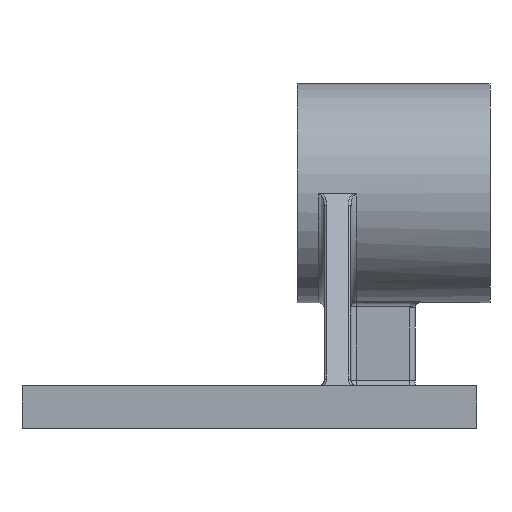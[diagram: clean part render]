
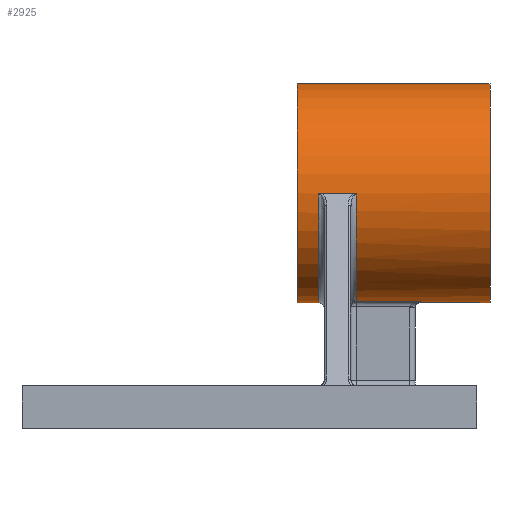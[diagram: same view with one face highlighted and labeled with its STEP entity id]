
A CAD part, left-side view. The second image highlights one B-rep face of the part: STEP entity #2925.
In plain terms, the highlighted cylindrical face has radius 41 mm (diameter 82 mm), a full revolution.
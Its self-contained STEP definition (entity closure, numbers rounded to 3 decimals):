
#301=CARTESIAN_POINT('',(-41.,-26.897,88.));
#302=VERTEX_POINT('',#301);
#303=CARTESIAN_POINT('',(-40.999,-26.,87.727));
#304=VERTEX_POINT('',#303);
#305=CARTESIAN_POINT('',(-40.999,-26.,87.727));
#306=CARTESIAN_POINT('',(-40.999,-26.001,87.728));
#307=CARTESIAN_POINT('',(-40.999,-26.002,87.729));
#308=CARTESIAN_POINT('',(-41.,-26.093,87.793));
#309=CARTESIAN_POINT('',(-41.,-26.189,87.845));
#310=CARTESIAN_POINT('',(-41.,-26.399,87.931));
#311=CARTESIAN_POINT('',(-41.,-26.512,87.961));
#312=CARTESIAN_POINT('',(-41.,-26.716,87.993));
#313=CARTESIAN_POINT('',(-41.,-26.806,88.));
#314=CARTESIAN_POINT('',(-41.,-26.897,88.));
#315=B_SPLINE_CURVE_WITH_KNOTS('',3,(#305,#306,#307,#308,#309,#310,#311,#312,#313,#314),.UNSPECIFIED.,.F.,.U.,(4,2,2,2,4),(0.,0.0,0.033,0.068,0.095),.UNSPECIFIED.);
#316=EDGE_CURVE('',#302,#304,#315,.F.);
#610=CARTESIAN_POINT('',(40.999,-26.,87.727));
#611=VERTEX_POINT('',#610);
#612=CARTESIAN_POINT('',(0.,-26.,88.));
#613=DIRECTION('',(0.0,-1.0,0.0));
#614=DIRECTION('',(0.0,0.0,-1.0));
#615=AXIS2_PLACEMENT_3D('',#612,#613,#614);
#616=CIRCLE('',#615,41.);
#617=EDGE_CURVE('',#304,#611,#616,.T.);
#803=CARTESIAN_POINT('',(41.,-39.103,88.));
#804=VERTEX_POINT('',#803);
#805=CARTESIAN_POINT('',(40.999,-40.,87.727));
#806=VERTEX_POINT('',#805);
#807=CARTESIAN_POINT('',(40.999,-40.,87.727));
#808=CARTESIAN_POINT('',(40.999,-39.999,87.728));
#809=CARTESIAN_POINT('',(40.999,-39.998,87.729));
#810=CARTESIAN_POINT('',(41.,-39.907,87.793));
#811=CARTESIAN_POINT('',(41.,-39.811,87.845));
#812=CARTESIAN_POINT('',(41.,-39.601,87.931));
#813=CARTESIAN_POINT('',(41.,-39.488,87.961));
#814=CARTESIAN_POINT('',(41.,-39.284,87.993));
#815=CARTESIAN_POINT('',(41.,-39.194,88.));
#816=CARTESIAN_POINT('',(41.,-39.103,88.));
#817=B_SPLINE_CURVE_WITH_KNOTS('',3,(#807,#808,#809,#810,#811,#812,#813,#814,#815,#816),.UNSPECIFIED.,.F.,.U.,(4,2,2,2,4),(0.,0.0,0.033,0.068,0.095),.UNSPECIFIED.);
#818=EDGE_CURVE('',#804,#806,#817,.F.);
#1120=CARTESIAN_POINT('',(41.,-26.897,88.));
#1121=VERTEX_POINT('',#1120);
#1122=CARTESIAN_POINT('',(41.,-26.897,88.));
#1123=CARTESIAN_POINT('',(41.,-26.861,88.));
#1124=CARTESIAN_POINT('',(41.,-26.825,87.999));
#1125=CARTESIAN_POINT('',(41.,-26.641,87.988));
#1126=CARTESIAN_POINT('',(41.,-26.495,87.96));
#1127=CARTESIAN_POINT('',(41.,-26.23,87.867));
#1128=CARTESIAN_POINT('',(41.,-26.112,87.807));
#1129=CARTESIAN_POINT('',(40.999,-26.002,87.729));
#1130=CARTESIAN_POINT('',(40.999,-26.001,87.728));
#1131=CARTESIAN_POINT('',(40.999,-26.,87.727));
#1132=B_SPLINE_CURVE_WITH_KNOTS('',3,(#1122,#1123,#1124,#1125,#1126,#1127,#1128,#1129,#1130,#1131),.UNSPECIFIED.,.F.,.U.,(4,2,2,2,4),(0.0,0.011,0.055,0.095,0.096),.UNSPECIFIED.);
#1133=EDGE_CURVE('',#611,#1121,#1132,.F.);
#1285=CARTESIAN_POINT('',(41.,-39.103,88.));
#1286=DIRECTION('',(0.0,1.0,0.0));
#1287=VECTOR('',#1286,12.207);
#1288=LINE('',#1285,#1287);
#1289=EDGE_CURVE('',#804,#1121,#1288,.T.);
#1549=CARTESIAN_POINT('',(-40.999,-40.,87.727));
#1550=VERTEX_POINT('',#1549);
#1551=CARTESIAN_POINT('',(-41.,-39.103,88.));
#1552=VERTEX_POINT('',#1551);
#1553=CARTESIAN_POINT('',(-41.,-39.103,88.));
#1554=CARTESIAN_POINT('',(-41.,-39.139,88.));
#1555=CARTESIAN_POINT('',(-41.,-39.175,87.999));
#1556=CARTESIAN_POINT('',(-41.,-39.359,87.988));
#1557=CARTESIAN_POINT('',(-41.,-39.505,87.96));
#1558=CARTESIAN_POINT('',(-41.,-39.77,87.867));
#1559=CARTESIAN_POINT('',(-41.,-39.888,87.807));
#1560=CARTESIAN_POINT('',(-40.999,-39.998,87.729));
#1561=CARTESIAN_POINT('',(-40.999,-39.999,87.728));
#1562=CARTESIAN_POINT('',(-40.999,-40.,87.727));
#1563=B_SPLINE_CURVE_WITH_KNOTS('',3,(#1553,#1554,#1555,#1556,#1557,#1558,#1559,#1560,#1561,#1562),.UNSPECIFIED.,.F.,.U.,(4,2,2,2,4),(0.0,0.011,0.055,0.095,0.096),.UNSPECIFIED.);
#1564=EDGE_CURVE('',#1550,#1552,#1563,.F.);
#1637=CARTESIAN_POINT('',(-6.674,-40.,47.547));
#1638=VERTEX_POINT('',#1637);
#1646=CARTESIAN_POINT('',(0.,-40.,88.));
#1647=DIRECTION('',(0.0,1.0,0.0));
#1648=DIRECTION('',(-0.749,0.0,-0.663));
#1649=AXIS2_PLACEMENT_3D('',#1646,#1647,#1648);
#1650=CIRCLE('',#1649,41.);
#1651=EDGE_CURVE('',#1638,#1550,#1650,.T.);
#1832=CARTESIAN_POINT('',(6.674,-64.0,47.547));
#1833=VERTEX_POINT('',#1832);
#2047=CARTESIAN_POINT('',(-6.674,-64.0,47.547));
#2048=VERTEX_POINT('',#2047);
#2049=CARTESIAN_POINT('',(0.,-64.0,88.));
#2050=DIRECTION('',(0.0,1.0,0.0));
#2051=DIRECTION('',(0.0,0.0,-1.0));
#2052=AXIS2_PLACEMENT_3D('',#2049,#2050,#2051);
#2053=CIRCLE('',#2052,41.);
#2054=EDGE_CURVE('',#1833,#2048,#2053,.T.);
#2098=CARTESIAN_POINT('',(6.674,-40.,47.547));
#2099=VERTEX_POINT('',#2098);
#2107=CARTESIAN_POINT('',(6.674,-40.,47.547));
#2108=DIRECTION('',(0.0,-1.0,0.0));
#2109=VECTOR('',#2108,24.);
#2110=LINE('',#2107,#2109);
#2111=EDGE_CURVE('',#2099,#1833,#2110,.T.);
#2767=CARTESIAN_POINT('',(-6.674,-64.0,47.547));
#2768=DIRECTION('',(0.0,1.0,0.0));
#2769=VECTOR('',#2768,24.);
#2770=LINE('',#2767,#2769);
#2771=EDGE_CURVE('',#2048,#1638,#2770,.T.);
#2824=CARTESIAN_POINT('',(0.,-40.,88.));
#2825=DIRECTION('',(0.0,1.,0.0));
#2826=DIRECTION('',(0.749,0.0,-0.663));
#2827=AXIS2_PLACEMENT_3D('',#2824,#2825,#2826);
#2828=CIRCLE('',#2827,41.0);
#2829=EDGE_CURVE('',#806,#2099,#2828,.T.);
#2879=CARTESIAN_POINT('',(0.,-90.,88.));
#2880=DIRECTION('',(0.0,1.0,0.0));
#2881=DIRECTION('',(-1.0,0.0,0.0));
#2882=AXIS2_PLACEMENT_3D('',#2879,#2880,#2881);
#2883=CYLINDRICAL_SURFACE('',#2882,41.);
#2884=CARTESIAN_POINT('',(41.,-90.,88.));
#2885=VERTEX_POINT('',#2884);
#2886=CARTESIAN_POINT('',(0.,-90.,88.));
#2887=DIRECTION('',(0.0,1.0,0.0));
#2888=DIRECTION('',(-1.0,0.0,0.0));
#2889=AXIS2_PLACEMENT_3D('',#2886,#2887,#2888);
#2890=CIRCLE('',#2889,41.);
#2891=EDGE_CURVE('',#2885,#2885,#2890,.T.);
#2892=ORIENTED_EDGE('',*,*,#2891,.T.);
#2893=EDGE_LOOP('',(#2892));
#2894=FACE_OUTER_BOUND('',#2893,.T.);
#2895=CARTESIAN_POINT('',(-41.,-26.897,88.));
#2896=DIRECTION('',(0.0,-1.0,0.0));
#2897=VECTOR('',#2896,12.207);
#2898=LINE('',#2895,#2897);
#2899=EDGE_CURVE('',#302,#1552,#2898,.T.);
#2900=ORIENTED_EDGE('',*,*,#2899,.T.);
#2901=ORIENTED_EDGE('',*,*,#1564,.F.);
#2902=ORIENTED_EDGE('',*,*,#1651,.F.);
#2903=ORIENTED_EDGE('',*,*,#2771,.F.);
#2904=ORIENTED_EDGE('',*,*,#2054,.F.);
#2905=ORIENTED_EDGE('',*,*,#2111,.F.);
#2906=ORIENTED_EDGE('',*,*,#2829,.F.);
#2907=ORIENTED_EDGE('',*,*,#818,.F.);
#2908=ORIENTED_EDGE('',*,*,#1289,.T.);
#2909=ORIENTED_EDGE('',*,*,#1133,.F.);
#2910=ORIENTED_EDGE('',*,*,#617,.F.);
#2911=ORIENTED_EDGE('',*,*,#316,.F.);
#2912=EDGE_LOOP('',(#2900,#2901,#2902,#2903,#2904,#2905,#2906,#2907,#2908,#2909,#2910,#2911));
#2913=FACE_BOUND('',#2912,.T.);
#2914=CARTESIAN_POINT('',(41.,-18.,88.));
#2915=VERTEX_POINT('',#2914);
#2916=CARTESIAN_POINT('',(0.,-18.,88.));
#2917=DIRECTION('',(0.0,-1.0,0.0));
#2918=DIRECTION('',(-1.0,0.0,0.0));
#2919=AXIS2_PLACEMENT_3D('',#2916,#2917,#2918);
#2920=CIRCLE('',#2919,41.);
#2921=EDGE_CURVE('',#2915,#2915,#2920,.T.);
#2922=ORIENTED_EDGE('',*,*,#2921,.T.);
#2923=EDGE_LOOP('',(#2922));
#2924=FACE_BOUND('',#2923,.T.);
#2925=ADVANCED_FACE('',(#2894,#2913,#2924),#2883,.T.);
